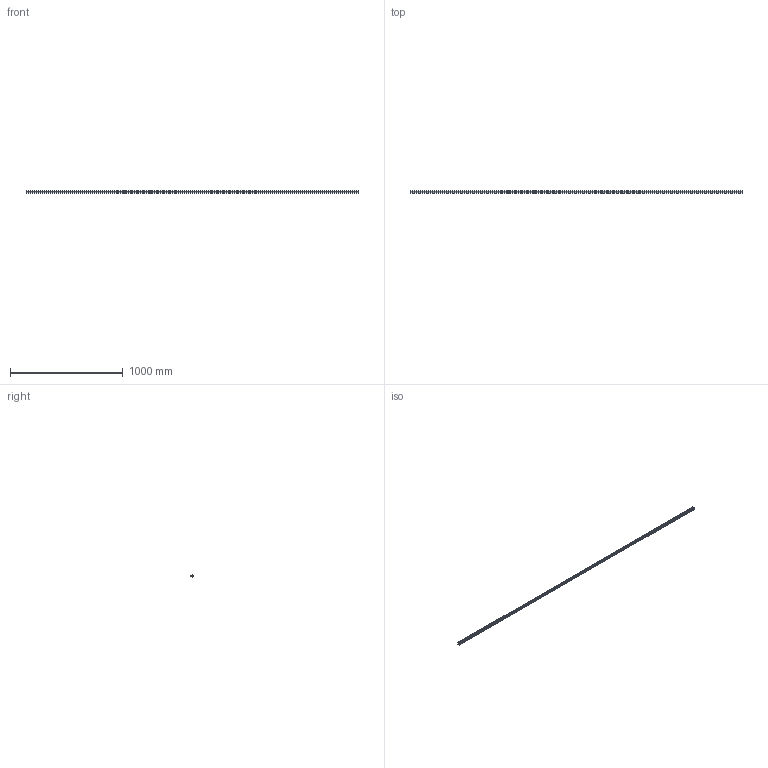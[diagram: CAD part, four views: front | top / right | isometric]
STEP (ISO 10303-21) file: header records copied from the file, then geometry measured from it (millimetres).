
FILE_DESCRIPTION (( 'STEP AP203' ), '1' );
FILE_NAME ('L1018.20R-2940.step', '2023-08-06T09:15:05', ( '' ), ( '' ), 'SwSTEP 2.0', 'SolidWorks 2019', '' );
FILE_SCHEMA (( 'CONFIG_CONTROL_DESIGN' ));
Length unit declared in the file: millimetre
Products named in the file (1): L1018.20R-2940
Bounding box: 2940 x 19.3 x 20 mm (x, y, z)
Volume: 932357.1 mm3; surface area: 248762.3 mm2
Topology: 1 solids, 1 shells, 470 faces, 1061 edges, 593 vertices
Faces by surface type: cylinder 199, cone 196, plane 75
Entity records: 12464 total; most frequent: DIRECTION 2401, CARTESIAN_POINT 2027, ORIENTED_EDGE 1926, AXIS2_PLACEMENT_3D 967, EDGE_CURVE 963, VERTEX_POINT 593, EDGE_LOOP 568, CIRCLE 496
